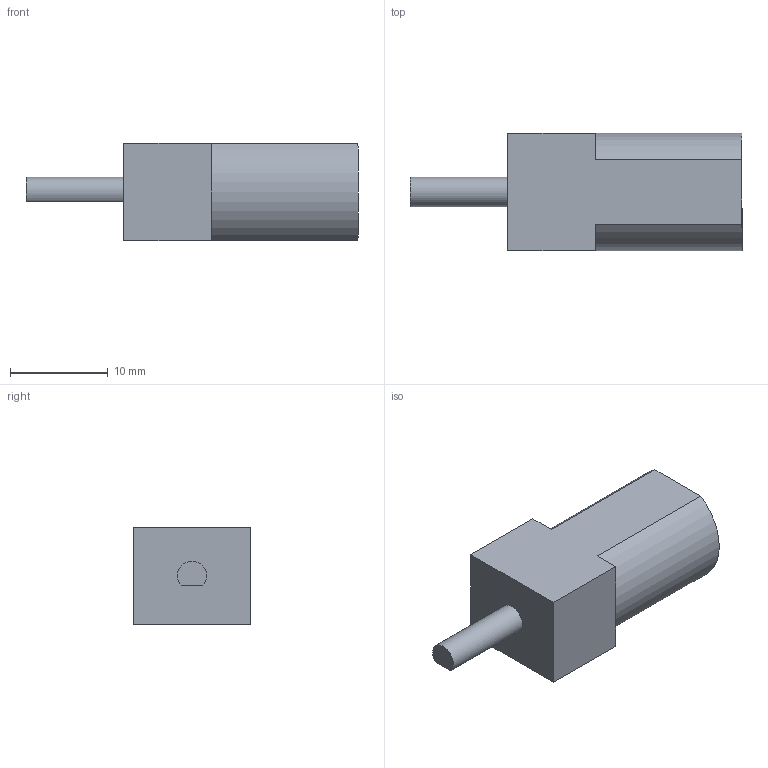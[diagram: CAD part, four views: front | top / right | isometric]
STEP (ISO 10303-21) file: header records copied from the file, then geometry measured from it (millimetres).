
FILE_DESCRIPTION(/* description */ ('STEP AP242 Edition 2','CAx-IF Rec.Pracs.---Representation and Presentation of Product Manufacturing Information (PMI)---4.0---2014-10-13','CAx-IF Rec.Pracs.---3D Tessellated Geometry---0.4---2014-09-14','2;1','CAx-IF Rec.Pracs.---User Defined Attributes---1.5---2016-08-15'),/* implementation_level */ '2;1');
FILE_NAME(/* name */ 'bb_v3 - dc-motor',/* time_stamp */ '2026-05-01T07:59:50Z',/* author */ (''),/* organization */ (''),/* preprocessor_version */ 'ST-DEVELOPER v20',/* originating_system */ 'ONSHAPE BY PTC INC, 1.214',/* authorisation */ ' ');
FILE_SCHEMA (('AP242_MANAGED_MODEL_BASED_3D_ENGINEERING_MIM_LF { 1 0 10303 442 3 1 4 }'));
Length unit declared in the file: metre
Products named in the file (1): dc-motor
Bounding box: 34 x 12 x 10 mm (x, y, z)
Volume: 2704.4 mm3; surface area: 1281 mm2
Topology: 1 solids, 1 shells, 15 faces, 34 edges, 22 vertices
Faces by surface type: plane 12, cylinder 3
Entity records: 442 total; most frequent: DIRECTION 74, CARTESIAN_POINT 72, ORIENTED_EDGE 68, EDGE_CURVE 34, LINE 26, VECTOR 26, AXIS2_PLACEMENT_3D 24, VERTEX_POINT 22
